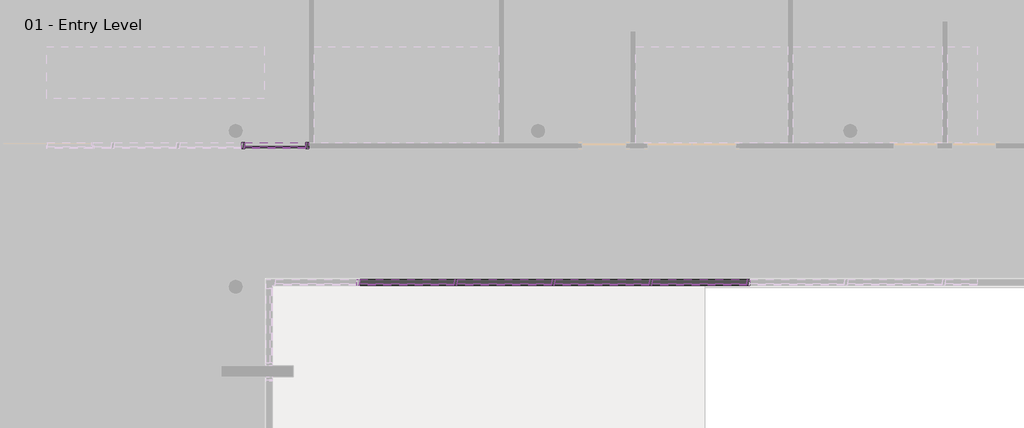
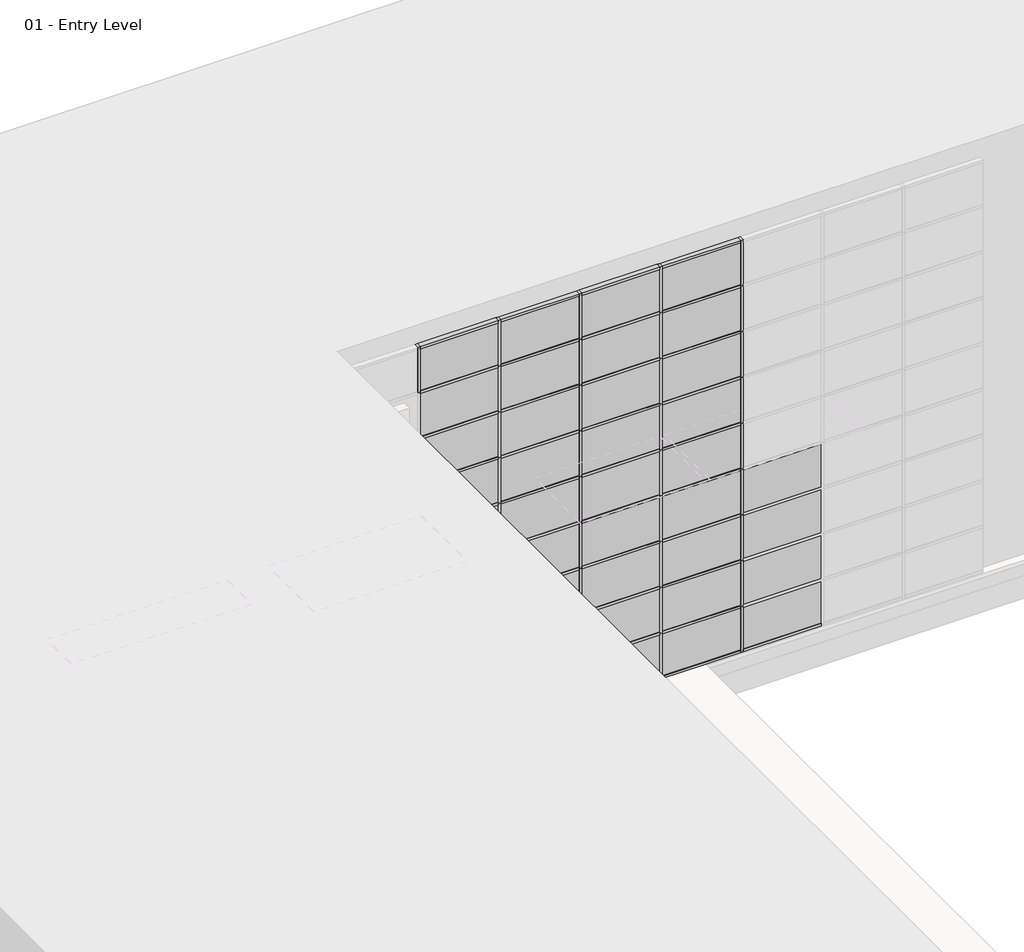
# One storey, part 26 of 35: 87 members, 42 plates.
"""IFC4 building model written with IfcOpenShell, lengths in millimetres."""

from ifc_helpers import new_model, si_unit, origin, place, context, project, spatial, transform, mapped, element, save
from components import member_2b49869a, member_18e22e2d, member_9193c932, member_391b434c, member_9e90ae50, member_6186cc23, member_5d67b9fc, member_c327c56d, member_a50b3cda, member_d5dacedd, member_7bb4584e, member_bc6ee0d3, system_panel_glazed_1b9d6098, system_panel_glazed_70da479d, system_panel_glazed_6ed60089, system_panel_glazed_f97b1054

model = new_model("IFC4")

# Units and contexts
model_context = context("Model", 3, world=origin())
ifc_project = project(units=[si_unit("LENGTHUNIT", "METRE", prefix="MILLI")], contexts=[model_context])

# Site, building, storey
site = spatial("IfcSite", under=ifc_project)
building = spatial("IfcBuilding", under=site)
storey = spatial("IfcBuildingStorey", under=building, Name="01 - Entry Level", Elevation=0.0)

# Members
placement = place(None, origin())
member_shape = member_2b49869a(model_context)
element("IfcMember", 1, ObjectType="Rectangular Mullion : 2.5\" x 5\" rectangular", at=placement, inside=storey, context=model_context, shape_type="MappedRepresentation", body=[
    mapped(member_shape, transform((19038.2207476, 42751.3, 9753.6), x_axis=(1.0, 0.0, 0.0), y_axis=(0.0, -1.0, 0.0), z_axis=(0.0, 0.0, -1.0))),
])
element("IfcMember", 2, ObjectType="Rectangular Mullion : 2.5\" x 5\" rectangular", at=placement, inside=storey, context=model_context, shape_type="MappedRepresentation", body=[
    mapped(member_shape, transform((21070.2207476, 42751.3, 9753.6), x_axis=(1.0, 0.0, 0.0), y_axis=(0.0, -1.0, 0.0), z_axis=(0.0, 0.0, -1.0))),
])
element("IfcMember", 3, ObjectType="Rectangular Mullion : 2.5\" x 5\" rectangular", at=placement, inside=storey, context=model_context, shape_type="MappedRepresentation", body=[
    mapped(member_shape, transform((23102.2207476, 42751.3, 9753.6), x_axis=(1.0, 0.0, 0.0), y_axis=(0.0, -1.0, 0.0), z_axis=(0.0, 0.0, -1.0))),
])
element("IfcMember", 4, ObjectType="Rectangular Mullion : 2.5\" x 5\" rectangular", at=placement, inside=storey, context=model_context, shape_type="MappedRepresentation", body=[
    mapped(member_shape, transform((25134.2207476, 42751.3, 9753.6), x_axis=(1.0, 0.0, 0.0), y_axis=(0.0, -1.0, 0.0), z_axis=(0.0, 0.0, -1.0))),
])
element("IfcMember", 5, ObjectType="Rectangular Mullion : 2.5\" x 5\" rectangular", at=placement, inside=storey, context=model_context, shape_type="MappedRepresentation", body=[
    mapped(member_shape, transform((27166.2207476, 42751.3, 9753.6), x_axis=(1.0, 0.0, 0.0), y_axis=(0.0, -1.0, 0.0), z_axis=(0.0, 0.0, -1.0))),
])
member_2_shape = member_18e22e2d(model_context)
element("IfcMember", 6, ObjectType="Rectangular Mullion : 2.5\" x 5\" rectangular", at=placement, inside=storey, context=model_context, shape_type="MappedRepresentation", body=[
    mapped(member_2_shape, transform((16643.3636048, 45608.8, 2438.4), x_axis=(-1.0, 0.0, 0.0), y_axis=(0.0, 1.0, 0.0), z_axis=(0.0, 0.0, -1.0))),
])
member_3_shape = member_9193c932(model_context)
element("IfcMember", 7, ObjectType="Rectangular Mullion : 2.5\" x 5\" rectangular", at=placement, inside=storey, context=model_context, shape_type="MappedRepresentation", body=[
    mapped(member_3_shape, transform((18003.1707476, 45608.8, 3403.6), x_axis=(1.0, 0.0, 0.0), y_axis=(0.0, 1.0, 0.0), z_axis=(0.0, 0.0, 1.0))),
])
member_4_shape = member_391b434c(model_context)
element("IfcMember", 8, ObjectType="Rectangular Mullion : 2.5\" x 5\" rectangular", at=placement, inside=storey, context=model_context, shape_type="MappedRepresentation", body=[
    mapped(member_4_shape, transform((21038.4707476, 42751.3, 10972.8), x_axis=(0.0, 0.0, 1.0), y_axis=(0.0, -1.0, 0.0), z_axis=(1.0, 0.0, 0.0))),
])
element("IfcMember", 9, ObjectType="Rectangular Mullion : 2.5\" x 5\" rectangular", at=placement, inside=storey, context=model_context, shape_type="MappedRepresentation", body=[
    mapped(member_4_shape, transform((23070.4707476, 42751.3, 10972.8), x_axis=(0.0, 0.0, 1.0), y_axis=(0.0, -1.0, 0.0), z_axis=(1.0, 0.0, 0.0))),
])
element("IfcMember", 10, ObjectType="Rectangular Mullion : 2.5\" x 5\" rectangular", at=placement, inside=storey, context=model_context, shape_type="MappedRepresentation", body=[
    mapped(member_4_shape, transform((25102.4707476, 42751.3, 10972.8), x_axis=(0.0, 0.0, 1.0), y_axis=(0.0, -1.0, 0.0), z_axis=(1.0, 0.0, 0.0))),
])
element("IfcMember", 11, ObjectType="Rectangular Mullion : 2.5\" x 5\" rectangular", at=placement, inside=storey, context=model_context, shape_type="MappedRepresentation", body=[
    mapped(member_4_shape, transform((27134.4707476, 42751.3, 10972.8), x_axis=(0.0, 0.0, 1.0), y_axis=(0.0, -1.0, 0.0), z_axis=(1.0, 0.0, 0.0))),
])
element("IfcMember", 12, ObjectType="Rectangular Mullion : 2.5\" x 5\" rectangular", at=placement, inside=storey, context=model_context, shape_type="MappedRepresentation", body=[
    mapped(member_4_shape, transform((21101.9707476, 42751.3, 0.0), x_axis=(0.0, 0.0, -1.0), y_axis=(0.0, -1.0, 0.0), z_axis=(-1.0, 0.0, 0.0))),
])
element("IfcMember", 13, ObjectType="Rectangular Mullion : 2.5\" x 5\" rectangular", at=placement, inside=storey, context=model_context, shape_type="MappedRepresentation", body=[
    mapped(member_4_shape, transform((23133.9707476, 42751.3, 0.0), x_axis=(0.0, 0.0, -1.0), y_axis=(0.0, -1.0, 0.0), z_axis=(-1.0, 0.0, 0.0))),
])
element("IfcMember", 14, ObjectType="Rectangular Mullion : 2.5\" x 5\" rectangular", at=placement, inside=storey, context=model_context, shape_type="MappedRepresentation", body=[
    mapped(member_4_shape, transform((25165.9707476, 42751.3, 0.0), x_axis=(0.0, 0.0, -1.0), y_axis=(0.0, -1.0, 0.0), z_axis=(-1.0, 0.0, 0.0))),
])
element("IfcMember", 15, ObjectType="Rectangular Mullion : 2.5\" x 5\" rectangular", at=placement, inside=storey, context=model_context, shape_type="MappedRepresentation", body=[
    mapped(member_4_shape, transform((27197.9707476, 42751.3, 0.0), x_axis=(0.0, 0.0, -1.0), y_axis=(0.0, -1.0, 0.0), z_axis=(-1.0, 0.0, 0.0))),
])
member_5_shape = member_9e90ae50(model_context)
element("IfcMember", 16, ObjectType="Rectangular Mullion : 2.5\" x 5\" rectangular", at=placement, inside=storey, context=model_context, shape_type="MappedRepresentation", body=[
    mapped(member_5_shape, transform((21038.4707476, 42751.3, 1219.2), x_axis=(0.0, 0.0, 1.0), y_axis=(0.0, -1.0, 0.0), z_axis=(1.0, 0.0, 0.0))),
])
element("IfcMember", 17, ObjectType="Rectangular Mullion : 2.5\" x 5\" rectangular", at=placement, inside=storey, context=model_context, shape_type="MappedRepresentation", body=[
    mapped(member_5_shape, transform((23070.4707476, 42751.3, 1219.2), x_axis=(0.0, 0.0, 1.0), y_axis=(0.0, -1.0, 0.0), z_axis=(1.0, 0.0, 0.0))),
])
element("IfcMember", 18, ObjectType="Rectangular Mullion : 2.5\" x 5\" rectangular", at=placement, inside=storey, context=model_context, shape_type="MappedRepresentation", body=[
    mapped(member_5_shape, transform((25102.4707476, 42751.3, 1219.2), x_axis=(0.0, 0.0, 1.0), y_axis=(0.0, -1.0, 0.0), z_axis=(1.0, 0.0, 0.0))),
])
element("IfcMember", 19, ObjectType="Rectangular Mullion : 2.5\" x 5\" rectangular", at=placement, inside=storey, context=model_context, shape_type="MappedRepresentation", body=[
    mapped(member_5_shape, transform((27134.4707476, 42751.3, 1219.2), x_axis=(0.0, 0.0, 1.0), y_axis=(0.0, -1.0, 0.0), z_axis=(1.0, 0.0, 0.0))),
])
element("IfcMember", 20, ObjectType="Rectangular Mullion : 2.5\" x 5\" rectangular", at=placement, inside=storey, context=model_context, shape_type="MappedRepresentation", body=[
    mapped(member_5_shape, transform((21038.4707476, 42751.3, 2438.4), x_axis=(0.0, 0.0, 1.0), y_axis=(0.0, -1.0, 0.0), z_axis=(1.0, 0.0, 0.0))),
])
element("IfcMember", 21, ObjectType="Rectangular Mullion : 2.5\" x 5\" rectangular", at=placement, inside=storey, context=model_context, shape_type="MappedRepresentation", body=[
    mapped(member_5_shape, transform((23070.4707476, 42751.3, 2438.4), x_axis=(0.0, 0.0, 1.0), y_axis=(0.0, -1.0, 0.0), z_axis=(1.0, 0.0, 0.0))),
])
element("IfcMember", 22, ObjectType="Rectangular Mullion : 2.5\" x 5\" rectangular", at=placement, inside=storey, context=model_context, shape_type="MappedRepresentation", body=[
    mapped(member_5_shape, transform((25102.4707476, 42751.3, 2438.4), x_axis=(0.0, 0.0, 1.0), y_axis=(0.0, -1.0, 0.0), z_axis=(1.0, 0.0, 0.0))),
])
element("IfcMember", 23, ObjectType="Rectangular Mullion : 2.5\" x 5\" rectangular", at=placement, inside=storey, context=model_context, shape_type="MappedRepresentation", body=[
    mapped(member_5_shape, transform((27134.4707476, 42751.3, 2438.4), x_axis=(0.0, 0.0, 1.0), y_axis=(0.0, -1.0, 0.0), z_axis=(1.0, 0.0, 0.0))),
])
element("IfcMember", 24, ObjectType="Rectangular Mullion : 2.5\" x 5\" rectangular", at=placement, inside=storey, context=model_context, shape_type="MappedRepresentation", body=[
    mapped(member_5_shape, transform((21038.4707476, 42751.3, 3657.6), x_axis=(0.0, 0.0, 1.0), y_axis=(0.0, -1.0, 0.0), z_axis=(1.0, 0.0, 0.0))),
])
element("IfcMember", 25, ObjectType="Rectangular Mullion : 2.5\" x 5\" rectangular", at=placement, inside=storey, context=model_context, shape_type="MappedRepresentation", body=[
    mapped(member_5_shape, transform((23070.4707476, 42751.3, 3657.6), x_axis=(0.0, 0.0, 1.0), y_axis=(0.0, -1.0, 0.0), z_axis=(1.0, 0.0, 0.0))),
])
element("IfcMember", 26, ObjectType="Rectangular Mullion : 2.5\" x 5\" rectangular", at=placement, inside=storey, context=model_context, shape_type="MappedRepresentation", body=[
    mapped(member_5_shape, transform((25102.4707476, 42751.3, 3657.6), x_axis=(0.0, 0.0, 1.0), y_axis=(0.0, -1.0, 0.0), z_axis=(1.0, 0.0, 0.0))),
])
element("IfcMember", 27, ObjectType="Rectangular Mullion : 2.5\" x 5\" rectangular", at=placement, inside=storey, context=model_context, shape_type="MappedRepresentation", body=[
    mapped(member_5_shape, transform((27134.4707476, 42751.3, 3657.6), x_axis=(0.0, 0.0, 1.0), y_axis=(0.0, -1.0, 0.0), z_axis=(1.0, 0.0, 0.0))),
])
element("IfcMember", 28, ObjectType="Rectangular Mullion : 2.5\" x 5\" rectangular", at=placement, inside=storey, context=model_context, shape_type="MappedRepresentation", body=[
    mapped(member_5_shape, transform((21038.4707476, 42751.3, 4876.8), x_axis=(0.0, 0.0, 1.0), y_axis=(0.0, -1.0, 0.0), z_axis=(1.0, 0.0, 0.0))),
])
element("IfcMember", 29, ObjectType="Rectangular Mullion : 2.5\" x 5\" rectangular", at=placement, inside=storey, context=model_context, shape_type="MappedRepresentation", body=[
    mapped(member_5_shape, transform((23070.4707476, 42751.3, 4876.8), x_axis=(0.0, 0.0, 1.0), y_axis=(0.0, -1.0, 0.0), z_axis=(1.0, 0.0, 0.0))),
])
element("IfcMember", 30, ObjectType="Rectangular Mullion : 2.5\" x 5\" rectangular", at=placement, inside=storey, context=model_context, shape_type="MappedRepresentation", body=[
    mapped(member_5_shape, transform((25102.4707476, 42751.3, 4876.8), x_axis=(0.0, 0.0, 1.0), y_axis=(0.0, -1.0, 0.0), z_axis=(1.0, 0.0, 0.0))),
])
element("IfcMember", 31, ObjectType="Rectangular Mullion : 2.5\" x 5\" rectangular", at=placement, inside=storey, context=model_context, shape_type="MappedRepresentation", body=[
    mapped(member_5_shape, transform((27134.4707476, 42751.3, 4876.8), x_axis=(0.0, 0.0, 1.0), y_axis=(0.0, -1.0, 0.0), z_axis=(1.0, 0.0, 0.0))),
])
element("IfcMember", 32, ObjectType="Rectangular Mullion : 2.5\" x 5\" rectangular", at=placement, inside=storey, context=model_context, shape_type="MappedRepresentation", body=[
    mapped(member_5_shape, transform((21038.4707476, 42751.3, 6096.0), x_axis=(0.0, 0.0, 1.0), y_axis=(0.0, -1.0, 0.0), z_axis=(1.0, 0.0, 0.0))),
])
element("IfcMember", 33, ObjectType="Rectangular Mullion : 2.5\" x 5\" rectangular", at=placement, inside=storey, context=model_context, shape_type="MappedRepresentation", body=[
    mapped(member_5_shape, transform((23070.4707476, 42751.3, 6096.0), x_axis=(0.0, 0.0, 1.0), y_axis=(0.0, -1.0, 0.0), z_axis=(1.0, 0.0, 0.0))),
])
element("IfcMember", 34, ObjectType="Rectangular Mullion : 2.5\" x 5\" rectangular", at=placement, inside=storey, context=model_context, shape_type="MappedRepresentation", body=[
    mapped(member_5_shape, transform((25102.4707476, 42751.3, 6096.0), x_axis=(0.0, 0.0, 1.0), y_axis=(0.0, -1.0, 0.0), z_axis=(1.0, 0.0, 0.0))),
])
element("IfcMember", 35, ObjectType="Rectangular Mullion : 2.5\" x 5\" rectangular", at=placement, inside=storey, context=model_context, shape_type="MappedRepresentation", body=[
    mapped(member_5_shape, transform((27134.4707476, 42751.3, 6096.0), x_axis=(0.0, 0.0, 1.0), y_axis=(0.0, -1.0, 0.0), z_axis=(1.0, 0.0, 0.0))),
])
element("IfcMember", 36, ObjectType="Rectangular Mullion : 2.5\" x 5\" rectangular", at=placement, inside=storey, context=model_context, shape_type="MappedRepresentation", body=[
    mapped(member_5_shape, transform((21038.4707476, 42751.3, 7315.2), x_axis=(0.0, 0.0, 1.0), y_axis=(0.0, -1.0, 0.0), z_axis=(1.0, 0.0, 0.0))),
])
element("IfcMember", 37, ObjectType="Rectangular Mullion : 2.5\" x 5\" rectangular", at=placement, inside=storey, context=model_context, shape_type="MappedRepresentation", body=[
    mapped(member_5_shape, transform((23070.4707476, 42751.3, 7315.2), x_axis=(0.0, 0.0, 1.0), y_axis=(0.0, -1.0, 0.0), z_axis=(1.0, 0.0, 0.0))),
])
element("IfcMember", 38, ObjectType="Rectangular Mullion : 2.5\" x 5\" rectangular", at=placement, inside=storey, context=model_context, shape_type="MappedRepresentation", body=[
    mapped(member_5_shape, transform((25102.4707476, 42751.3, 7315.2), x_axis=(0.0, 0.0, 1.0), y_axis=(0.0, -1.0, 0.0), z_axis=(1.0, 0.0, 0.0))),
])
element("IfcMember", 39, ObjectType="Rectangular Mullion : 2.5\" x 5\" rectangular", at=placement, inside=storey, context=model_context, shape_type="MappedRepresentation", body=[
    mapped(member_5_shape, transform((27134.4707476, 42751.3, 7315.2), x_axis=(0.0, 0.0, 1.0), y_axis=(0.0, -1.0, 0.0), z_axis=(1.0, 0.0, 0.0))),
])
element("IfcMember", 40, ObjectType="Rectangular Mullion : 2.5\" x 5\" rectangular", at=placement, inside=storey, context=model_context, shape_type="MappedRepresentation", body=[
    mapped(member_5_shape, transform((21038.4707476, 42751.3, 8534.4), x_axis=(0.0, 0.0, 1.0), y_axis=(0.0, -1.0, 0.0), z_axis=(1.0, 0.0, 0.0))),
])
element("IfcMember", 41, ObjectType="Rectangular Mullion : 2.5\" x 5\" rectangular", at=placement, inside=storey, context=model_context, shape_type="MappedRepresentation", body=[
    mapped(member_5_shape, transform((23070.4707476, 42751.3, 8534.4), x_axis=(0.0, 0.0, 1.0), y_axis=(0.0, -1.0, 0.0), z_axis=(1.0, 0.0, 0.0))),
])
element("IfcMember", 42, ObjectType="Rectangular Mullion : 2.5\" x 5\" rectangular", at=placement, inside=storey, context=model_context, shape_type="MappedRepresentation", body=[
    mapped(member_5_shape, transform((25102.4707476, 42751.3, 8534.4), x_axis=(0.0, 0.0, 1.0), y_axis=(0.0, -1.0, 0.0), z_axis=(1.0, 0.0, 0.0))),
])
element("IfcMember", 43, ObjectType="Rectangular Mullion : 2.5\" x 5\" rectangular", at=placement, inside=storey, context=model_context, shape_type="MappedRepresentation", body=[
    mapped(member_5_shape, transform((27134.4707476, 42751.3, 8534.4), x_axis=(0.0, 0.0, 1.0), y_axis=(0.0, -1.0, 0.0), z_axis=(1.0, 0.0, 0.0))),
])
element("IfcMember", 44, ObjectType="Rectangular Mullion : 2.5\" x 5\" rectangular", at=placement, inside=storey, context=model_context, shape_type="MappedRepresentation", body=[
    mapped(member_5_shape, transform((21038.4707476, 42751.3, 9753.6), x_axis=(0.0, 0.0, 1.0), y_axis=(0.0, -1.0, 0.0), z_axis=(1.0, 0.0, 0.0))),
])
element("IfcMember", 45, ObjectType="Rectangular Mullion : 2.5\" x 5\" rectangular", at=placement, inside=storey, context=model_context, shape_type="MappedRepresentation", body=[
    mapped(member_5_shape, transform((23070.4707476, 42751.3, 9753.6), x_axis=(0.0, 0.0, 1.0), y_axis=(0.0, -1.0, 0.0), z_axis=(1.0, 0.0, 0.0))),
])
element("IfcMember", 46, ObjectType="Rectangular Mullion : 2.5\" x 5\" rectangular", at=placement, inside=storey, context=model_context, shape_type="MappedRepresentation", body=[
    mapped(member_5_shape, transform((25102.4707476, 42751.3, 9753.6), x_axis=(0.0, 0.0, 1.0), y_axis=(0.0, -1.0, 0.0), z_axis=(1.0, 0.0, 0.0))),
])
element("IfcMember", 47, ObjectType="Rectangular Mullion : 2.5\" x 5\" rectangular", at=placement, inside=storey, context=model_context, shape_type="MappedRepresentation", body=[
    mapped(member_5_shape, transform((27134.4707476, 42751.3, 9753.6), x_axis=(0.0, 0.0, 1.0), y_axis=(0.0, -1.0, 0.0), z_axis=(1.0, 0.0, 0.0))),
])
element("IfcMember", 48, ObjectType="Rectangular Mullion : 2.5\" x 5\" rectangular", at=placement, inside=storey, context=model_context, shape_type="MappedRepresentation", body=[
    mapped(member_shape, transform((21070.2207476, 42751.3, 0.0), x_axis=(1.0, 0.0, 0.0), y_axis=(0.0, -1.0, 0.0), z_axis=(0.0, 0.0, -1.0))),
])
element("IfcMember", 49, ObjectType="Rectangular Mullion : 2.5\" x 5\" rectangular", at=placement, inside=storey, context=model_context, shape_type="MappedRepresentation", body=[
    mapped(member_shape, transform((23102.2207476, 42751.3, 0.0), x_axis=(1.0, 0.0, 0.0), y_axis=(0.0, -1.0, 0.0), z_axis=(0.0, 0.0, -1.0))),
])
element("IfcMember", 50, ObjectType="Rectangular Mullion : 2.5\" x 5\" rectangular", at=placement, inside=storey, context=model_context, shape_type="MappedRepresentation", body=[
    mapped(member_shape, transform((25134.2207476, 42751.3, 0.0), x_axis=(1.0, 0.0, 0.0), y_axis=(0.0, -1.0, 0.0), z_axis=(0.0, 0.0, -1.0))),
])
element("IfcMember", 51, ObjectType="Rectangular Mullion : 2.5\" x 5\" rectangular", at=placement, inside=storey, context=model_context, shape_type="MappedRepresentation", body=[
    mapped(member_shape, transform((27166.2207476, 42751.3, 0.0), x_axis=(1.0, 0.0, 0.0), y_axis=(0.0, -1.0, 0.0), z_axis=(0.0, 0.0, -1.0))),
])
element("IfcMember", 52, ObjectType="Rectangular Mullion : 2.5\" x 5\" rectangular", at=placement, inside=storey, context=model_context, shape_type="MappedRepresentation", body=[
    mapped(member_shape, transform((21070.2207476, 42751.3, 1219.2), x_axis=(1.0, 0.0, 0.0), y_axis=(0.0, -1.0, 0.0), z_axis=(0.0, 0.0, -1.0))),
])
element("IfcMember", 53, ObjectType="Rectangular Mullion : 2.5\" x 5\" rectangular", at=placement, inside=storey, context=model_context, shape_type="MappedRepresentation", body=[
    mapped(member_shape, transform((23102.2207476, 42751.3, 1219.2), x_axis=(1.0, 0.0, 0.0), y_axis=(0.0, -1.0, 0.0), z_axis=(0.0, 0.0, -1.0))),
])
element("IfcMember", 54, ObjectType="Rectangular Mullion : 2.5\" x 5\" rectangular", at=placement, inside=storey, context=model_context, shape_type="MappedRepresentation", body=[
    mapped(member_shape, transform((25134.2207476, 42751.3, 1219.2), x_axis=(1.0, 0.0, 0.0), y_axis=(0.0, -1.0, 0.0), z_axis=(0.0, 0.0, -1.0))),
])
element("IfcMember", 55, ObjectType="Rectangular Mullion : 2.5\" x 5\" rectangular", at=placement, inside=storey, context=model_context, shape_type="MappedRepresentation", body=[
    mapped(member_shape, transform((27166.2207476, 42751.3, 1219.2), x_axis=(1.0, 0.0, 0.0), y_axis=(0.0, -1.0, 0.0), z_axis=(0.0, 0.0, -1.0))),
])
element("IfcMember", 56, ObjectType="Rectangular Mullion : 2.5\" x 5\" rectangular", at=placement, inside=storey, context=model_context, shape_type="MappedRepresentation", body=[
    mapped(member_shape, transform((21070.2207476, 42751.3, 2438.4), x_axis=(1.0, 0.0, 0.0), y_axis=(0.0, -1.0, 0.0), z_axis=(0.0, 0.0, -1.0))),
])
element("IfcMember", 57, ObjectType="Rectangular Mullion : 2.5\" x 5\" rectangular", at=placement, inside=storey, context=model_context, shape_type="MappedRepresentation", body=[
    mapped(member_shape, transform((23102.2207476, 42751.3, 2438.4), x_axis=(1.0, 0.0, 0.0), y_axis=(0.0, -1.0, 0.0), z_axis=(0.0, 0.0, -1.0))),
])
element("IfcMember", 58, ObjectType="Rectangular Mullion : 2.5\" x 5\" rectangular", at=placement, inside=storey, context=model_context, shape_type="MappedRepresentation", body=[
    mapped(member_shape, transform((25134.2207476, 42751.3, 2438.4), x_axis=(1.0, 0.0, 0.0), y_axis=(0.0, -1.0, 0.0), z_axis=(0.0, 0.0, -1.0))),
])
element("IfcMember", 59, ObjectType="Rectangular Mullion : 2.5\" x 5\" rectangular", at=placement, inside=storey, context=model_context, shape_type="MappedRepresentation", body=[
    mapped(member_shape, transform((27166.2207476, 42751.3, 2438.4), x_axis=(1.0, 0.0, 0.0), y_axis=(0.0, -1.0, 0.0), z_axis=(0.0, 0.0, -1.0))),
])
element("IfcMember", 60, ObjectType="Rectangular Mullion : 2.5\" x 5\" rectangular", at=placement, inside=storey, context=model_context, shape_type="MappedRepresentation", body=[
    mapped(member_shape, transform((21070.2207476, 42751.3, 3657.6), x_axis=(1.0, 0.0, 0.0), y_axis=(0.0, -1.0, 0.0), z_axis=(0.0, 0.0, -1.0))),
])
element("IfcMember", 61, ObjectType="Rectangular Mullion : 2.5\" x 5\" rectangular", at=placement, inside=storey, context=model_context, shape_type="MappedRepresentation", body=[
    mapped(member_shape, transform((23102.2207476, 42751.3, 3657.6), x_axis=(1.0, 0.0, 0.0), y_axis=(0.0, -1.0, 0.0), z_axis=(0.0, 0.0, -1.0))),
])
element("IfcMember", 62, ObjectType="Rectangular Mullion : 2.5\" x 5\" rectangular", at=placement, inside=storey, context=model_context, shape_type="MappedRepresentation", body=[
    mapped(member_shape, transform((25134.2207476, 42751.3, 3657.6), x_axis=(1.0, 0.0, 0.0), y_axis=(0.0, -1.0, 0.0), z_axis=(0.0, 0.0, -1.0))),
])
element("IfcMember", 63, ObjectType="Rectangular Mullion : 2.5\" x 5\" rectangular", at=placement, inside=storey, context=model_context, shape_type="MappedRepresentation", body=[
    mapped(member_shape, transform((27166.2207476, 42751.3, 3657.6), x_axis=(1.0, 0.0, 0.0), y_axis=(0.0, -1.0, 0.0), z_axis=(0.0, 0.0, -1.0))),
])
element("IfcMember", 64, ObjectType="Rectangular Mullion : 2.5\" x 5\" rectangular", at=placement, inside=storey, context=model_context, shape_type="MappedRepresentation", body=[
    mapped(member_shape, transform((21070.2207476, 42751.3, 4876.8), x_axis=(1.0, 0.0, 0.0), y_axis=(0.0, -1.0, 0.0), z_axis=(0.0, 0.0, -1.0))),
])
element("IfcMember", 65, ObjectType="Rectangular Mullion : 2.5\" x 5\" rectangular", at=placement, inside=storey, context=model_context, shape_type="MappedRepresentation", body=[
    mapped(member_shape, transform((23102.2207476, 42751.3, 4876.8), x_axis=(1.0, 0.0, 0.0), y_axis=(0.0, -1.0, 0.0), z_axis=(0.0, 0.0, -1.0))),
])
element("IfcMember", 66, ObjectType="Rectangular Mullion : 2.5\" x 5\" rectangular", at=placement, inside=storey, context=model_context, shape_type="MappedRepresentation", body=[
    mapped(member_shape, transform((25134.2207476, 42751.3, 4876.8), x_axis=(1.0, 0.0, 0.0), y_axis=(0.0, -1.0, 0.0), z_axis=(0.0, 0.0, -1.0))),
])
element("IfcMember", 67, ObjectType="Rectangular Mullion : 2.5\" x 5\" rectangular", at=placement, inside=storey, context=model_context, shape_type="MappedRepresentation", body=[
    mapped(member_shape, transform((27166.2207476, 42751.3, 4876.8), x_axis=(1.0, 0.0, 0.0), y_axis=(0.0, -1.0, 0.0), z_axis=(0.0, 0.0, -1.0))),
])
element("IfcMember", 68, ObjectType="Rectangular Mullion : 2.5\" x 5\" rectangular", at=placement, inside=storey, context=model_context, shape_type="MappedRepresentation", body=[
    mapped(member_shape, transform((21070.2207476, 42751.3, 6096.0), x_axis=(1.0, 0.0, 0.0), y_axis=(0.0, -1.0, 0.0), z_axis=(0.0, 0.0, -1.0))),
])
element("IfcMember", 69, ObjectType="Rectangular Mullion : 2.5\" x 5\" rectangular", at=placement, inside=storey, context=model_context, shape_type="MappedRepresentation", body=[
    mapped(member_shape, transform((23102.2207476, 42751.3, 6096.0), x_axis=(1.0, 0.0, 0.0), y_axis=(0.0, -1.0, 0.0), z_axis=(0.0, 0.0, -1.0))),
])
element("IfcMember", 70, ObjectType="Rectangular Mullion : 2.5\" x 5\" rectangular", at=placement, inside=storey, context=model_context, shape_type="MappedRepresentation", body=[
    mapped(member_shape, transform((25134.2207476, 42751.3, 6096.0), x_axis=(1.0, 0.0, 0.0), y_axis=(0.0, -1.0, 0.0), z_axis=(0.0, 0.0, -1.0))),
])
element("IfcMember", 71, ObjectType="Rectangular Mullion : 2.5\" x 5\" rectangular", at=placement, inside=storey, context=model_context, shape_type="MappedRepresentation", body=[
    mapped(member_shape, transform((27166.2207476, 42751.3, 6096.0), x_axis=(1.0, 0.0, 0.0), y_axis=(0.0, -1.0, 0.0), z_axis=(0.0, 0.0, -1.0))),
])
element("IfcMember", 72, ObjectType="Rectangular Mullion : 2.5\" x 5\" rectangular", at=placement, inside=storey, context=model_context, shape_type="MappedRepresentation", body=[
    mapped(member_shape, transform((21070.2207476, 42751.3, 7315.2), x_axis=(1.0, 0.0, 0.0), y_axis=(0.0, -1.0, 0.0), z_axis=(0.0, 0.0, -1.0))),
])
element("IfcMember", 73, ObjectType="Rectangular Mullion : 2.5\" x 5\" rectangular", at=placement, inside=storey, context=model_context, shape_type="MappedRepresentation", body=[
    mapped(member_shape, transform((23102.2207476, 42751.3, 7315.2), x_axis=(1.0, 0.0, 0.0), y_axis=(0.0, -1.0, 0.0), z_axis=(0.0, 0.0, -1.0))),
])
element("IfcMember", 74, ObjectType="Rectangular Mullion : 2.5\" x 5\" rectangular", at=placement, inside=storey, context=model_context, shape_type="MappedRepresentation", body=[
    mapped(member_shape, transform((25134.2207476, 42751.3, 7315.2), x_axis=(1.0, 0.0, 0.0), y_axis=(0.0, -1.0, 0.0), z_axis=(0.0, 0.0, -1.0))),
])
element("IfcMember", 75, ObjectType="Rectangular Mullion : 2.5\" x 5\" rectangular", at=placement, inside=storey, context=model_context, shape_type="MappedRepresentation", body=[
    mapped(member_shape, transform((27166.2207476, 42751.3, 7315.2), x_axis=(1.0, 0.0, 0.0), y_axis=(0.0, -1.0, 0.0), z_axis=(0.0, 0.0, -1.0))),
])
element("IfcMember", 76, ObjectType="Rectangular Mullion : 2.5\" x 5\" rectangular", at=placement, inside=storey, context=model_context, shape_type="MappedRepresentation", body=[
    mapped(member_shape, transform((21070.2207476, 42751.3, 8534.4), x_axis=(1.0, 0.0, 0.0), y_axis=(0.0, -1.0, 0.0), z_axis=(0.0, 0.0, -1.0))),
])
element("IfcMember", 77, ObjectType="Rectangular Mullion : 2.5\" x 5\" rectangular", at=placement, inside=storey, context=model_context, shape_type="MappedRepresentation", body=[
    mapped(member_shape, transform((23102.2207476, 42751.3, 8534.4), x_axis=(1.0, 0.0, 0.0), y_axis=(0.0, -1.0, 0.0), z_axis=(0.0, 0.0, -1.0))),
])
element("IfcMember", 78, ObjectType="Rectangular Mullion : 2.5\" x 5\" rectangular", at=placement, inside=storey, context=model_context, shape_type="MappedRepresentation", body=[
    mapped(member_shape, transform((25134.2207476, 42751.3, 8534.4), x_axis=(1.0, 0.0, 0.0), y_axis=(0.0, -1.0, 0.0), z_axis=(0.0, 0.0, -1.0))),
])
element("IfcMember", 79, ObjectType="Rectangular Mullion : 2.5\" x 5\" rectangular", at=placement, inside=storey, context=model_context, shape_type="MappedRepresentation", body=[
    mapped(member_shape, transform((27166.2207476, 42751.3, 8534.4), x_axis=(1.0, 0.0, 0.0), y_axis=(0.0, -1.0, 0.0), z_axis=(0.0, 0.0, -1.0))),
])
member_6_shape = member_6186cc23(model_context)
element("IfcMember", 80, ObjectType="Rectangular Mullion : 2.5\" x 5\" rectangular", at=placement, inside=storey, context=model_context, shape_type="MappedRepresentation", body=[
    mapped(member_6_shape, transform((16643.3636048, 45608.8, 0.0), x_axis=(-1.0, 0.0, 0.0), y_axis=(0.0, 1.0, 0.0), z_axis=(0.0, 0.0, -1.0))),
])
member_7_shape = member_5d67b9fc(model_context)
element("IfcMember", 81, ObjectType="Rectangular Mullion : 2.5\" x 5\" rectangular", at=placement, inside=storey, context=model_context, shape_type="MappedRepresentation", body=[
    mapped(member_7_shape, transform((16643.3636048, 45608.8, 2165.35), x_axis=(-1.0, 0.0, 0.0), y_axis=(0.0, 1.0, 0.0), z_axis=(0.0, 0.0, -1.0))),
])
member_8_shape = member_c327c56d(model_context)
element("IfcMember", 82, ObjectType="Rectangular Mullion : 2.5\" x 5\" rectangular", at=placement, inside=storey, context=model_context, shape_type="MappedRepresentation", body=[
    mapped(member_8_shape, transform((18003.1707476, 45608.8, 2438.4), x_axis=(1.0, 0.0, 0.0), y_axis=(0.0, 1.0, 0.0), z_axis=(0.0, 0.0, 1.0))),
])
member_9_shape = member_a50b3cda(model_context)
element("IfcMember", 83, ObjectType="Rectangular Mullion : 2.5\" x 5\" rectangular", at=placement, inside=storey, context=model_context, shape_type="MappedRepresentation", body=[
    mapped(member_9_shape, transform((18003.1707476, 45608.8, 2165.35), x_axis=(1.0, 0.0, 0.0), y_axis=(0.0, 1.0, 0.0), z_axis=(0.0, 0.0, 1.0))),
])
member_10_shape = member_d5dacedd(model_context)
element("IfcMember", 84, ObjectType="Rectangular Mullion : 2.5\" x 5\" rectangular", at=placement, inside=storey, context=model_context, shape_type="MappedRepresentation", body=[
    mapped(member_10_shape, transform((16675.1136048, 45608.8, 3403.6), x_axis=(0.0, 0.0, 1.0), y_axis=(0.0, 1.0, 0.0), z_axis=(-1.0, 0.0, 0.0))),
])
element("IfcMember", 85, ObjectType="Rectangular Mullion : 2.5\" x 5\" rectangular", at=placement, inside=storey, context=model_context, shape_type="MappedRepresentation", body=[
    mapped(member_10_shape, transform((17939.6707476, 45608.8, 0.0), x_axis=(0.0, 0.0, -1.0), y_axis=(0.0, 1.0, 0.0), z_axis=(1.0, 0.0, 0.0))),
])
member_11_shape = member_7bb4584e(model_context)
element("IfcMember", 86, ObjectType="Rectangular Mullion : 2.5\" x 5\" rectangular", at=placement, inside=storey, context=model_context, shape_type="MappedRepresentation", body=[
    mapped(member_11_shape, transform((16611.6136048, 45608.8, 0.0), x_axis=(0.0, 0.0, -1.0), y_axis=(0.0, 1.0, 0.0), z_axis=(1.0, 0.0, 0.0))),
])
member_12_shape = member_bc6ee0d3(model_context)
element("IfcMember", 87, ObjectType="Rectangular Mullion : 2.5\" x 5\" rectangular", at=placement, inside=storey, context=model_context, shape_type="MappedRepresentation", body=[
    mapped(member_12_shape, transform((16675.1136048, 45608.8, 2438.4), x_axis=(0.0, 0.0, 1.0), y_axis=(0.0, 1.0, 0.0), z_axis=(-1.0, 0.0, 0.0))),
])

# Plates
system_panel_glazed_shape = system_panel_glazed_1b9d6098(model_context)
element("IfcPlate", 88, ObjectType="System Panel : Glazed", at=placement, inside=storey, context=model_context, shape_type="MappedRepresentation", body=[
    mapped(system_panel_glazed_shape, transform((20054.2207476, 42751.3, 63.5), x_axis=(1.0, 0.0, 0.0), y_axis=(0.0, 1.0, 0.0), z_axis=(0.0, 0.0, 1.0))),
])
element("IfcPlate", 89, ObjectType="System Panel : Glazed", at=placement, inside=storey, context=model_context, shape_type="MappedRepresentation", body=[
    mapped(system_panel_glazed_shape, transform((22086.2207476, 42751.3, 63.5), x_axis=(1.0, 0.0, 0.0), y_axis=(0.0, 1.0, 0.0), z_axis=(0.0, 0.0, 1.0))),
])
element("IfcPlate", 90, ObjectType="System Panel : Glazed", at=placement, inside=storey, context=model_context, shape_type="MappedRepresentation", body=[
    mapped(system_panel_glazed_shape, transform((24118.2207476, 42751.3, 63.5), x_axis=(1.0, 0.0, 0.0), y_axis=(0.0, 1.0, 0.0), z_axis=(0.0, 0.0, 1.0))),
])
element("IfcPlate", 91, ObjectType="System Panel : Glazed", at=placement, inside=storey, context=model_context, shape_type="MappedRepresentation", body=[
    mapped(system_panel_glazed_shape, transform((26150.2207476, 42751.3, 63.5), x_axis=(1.0, 0.0, 0.0), y_axis=(0.0, 1.0, 0.0), z_axis=(0.0, 0.0, 1.0))),
])
element("IfcPlate", 92, ObjectType="System Panel : Glazed", at=placement, inside=storey, context=model_context, shape_type="MappedRepresentation", body=[
    mapped(system_panel_glazed_shape, transform((28182.2207476, 42751.3, 63.5), x_axis=(1.0, 0.0, 0.0), y_axis=(0.0, 1.0, 0.0), z_axis=(0.0, 0.0, 1.0))),
])
element("IfcPlate", 93, ObjectType="System Panel : Glazed", at=placement, inside=storey, context=model_context, shape_type="MappedRepresentation", body=[
    mapped(system_panel_glazed_shape, transform((20054.2207476, 42751.3, 9785.35), x_axis=(1.0, 0.0, 0.0), y_axis=(0.0, 1.0, 0.0), z_axis=(0.0, 0.0, 1.0))),
])
element("IfcPlate", 94, ObjectType="System Panel : Glazed", at=placement, inside=storey, context=model_context, shape_type="MappedRepresentation", body=[
    mapped(system_panel_glazed_shape, transform((22086.2207476, 42751.3, 9785.35), x_axis=(1.0, 0.0, 0.0), y_axis=(0.0, 1.0, 0.0), z_axis=(0.0, 0.0, 1.0))),
])
element("IfcPlate", 95, ObjectType="System Panel : Glazed", at=placement, inside=storey, context=model_context, shape_type="MappedRepresentation", body=[
    mapped(system_panel_glazed_shape, transform((24118.2207476, 42751.3, 9785.35), x_axis=(1.0, 0.0, 0.0), y_axis=(0.0, 1.0, 0.0), z_axis=(0.0, 0.0, 1.0))),
])
element("IfcPlate", 96, ObjectType="System Panel : Glazed", at=placement, inside=storey, context=model_context, shape_type="MappedRepresentation", body=[
    mapped(system_panel_glazed_shape, transform((26150.2207476, 42751.3, 9785.35), x_axis=(1.0, 0.0, 0.0), y_axis=(0.0, 1.0, 0.0), z_axis=(0.0, 0.0, 1.0))),
])
system_panel_glazed_2_shape = system_panel_glazed_70da479d(model_context)
element("IfcPlate", 97, ObjectType="System Panel : Glazed", at=placement, inside=storey, context=model_context, shape_type="MappedRepresentation", body=[
    mapped(system_panel_glazed_2_shape, transform((20054.2207476, 42751.3, 1250.95), x_axis=(1.0, 0.0, 0.0), y_axis=(0.0, 1.0, 0.0), z_axis=(0.0, 0.0, 1.0))),
])
element("IfcPlate", 98, ObjectType="System Panel : Glazed", at=placement, inside=storey, context=model_context, shape_type="MappedRepresentation", body=[
    mapped(system_panel_glazed_2_shape, transform((22086.2207476, 42751.3, 1250.95), x_axis=(1.0, 0.0, 0.0), y_axis=(0.0, 1.0, 0.0), z_axis=(0.0, 0.0, 1.0))),
])
element("IfcPlate", 99, ObjectType="System Panel : Glazed", at=placement, inside=storey, context=model_context, shape_type="MappedRepresentation", body=[
    mapped(system_panel_glazed_2_shape, transform((24118.2207476, 42751.3, 1250.95), x_axis=(1.0, 0.0, 0.0), y_axis=(0.0, 1.0, 0.0), z_axis=(0.0, 0.0, 1.0))),
])
element("IfcPlate", 100, ObjectType="System Panel : Glazed", at=placement, inside=storey, context=model_context, shape_type="MappedRepresentation", body=[
    mapped(system_panel_glazed_2_shape, transform((26150.2207476, 42751.3, 1250.95), x_axis=(1.0, 0.0, 0.0), y_axis=(0.0, 1.0, 0.0), z_axis=(0.0, 0.0, 1.0))),
])
element("IfcPlate", 101, ObjectType="System Panel : Glazed", at=placement, inside=storey, context=model_context, shape_type="MappedRepresentation", body=[
    mapped(system_panel_glazed_2_shape, transform((28182.2207476, 42751.3, 1250.95), x_axis=(1.0, 0.0, 0.0), y_axis=(0.0, 1.0, 0.0), z_axis=(0.0, 0.0, 1.0))),
])
element("IfcPlate", 102, ObjectType="System Panel : Glazed", at=placement, inside=storey, context=model_context, shape_type="MappedRepresentation", body=[
    mapped(system_panel_glazed_2_shape, transform((20054.2207476, 42751.3, 2470.15), x_axis=(1.0, 0.0, 0.0), y_axis=(0.0, 1.0, 0.0), z_axis=(0.0, 0.0, 1.0))),
])
element("IfcPlate", 103, ObjectType="System Panel : Glazed", at=placement, inside=storey, context=model_context, shape_type="MappedRepresentation", body=[
    mapped(system_panel_glazed_2_shape, transform((22086.2207476, 42751.3, 2470.15), x_axis=(1.0, 0.0, 0.0), y_axis=(0.0, 1.0, 0.0), z_axis=(0.0, 0.0, 1.0))),
])
element("IfcPlate", 104, ObjectType="System Panel : Glazed", at=placement, inside=storey, context=model_context, shape_type="MappedRepresentation", body=[
    mapped(system_panel_glazed_2_shape, transform((24118.2207476, 42751.3, 2470.15), x_axis=(1.0, 0.0, 0.0), y_axis=(0.0, 1.0, 0.0), z_axis=(0.0, 0.0, 1.0))),
])
element("IfcPlate", 105, ObjectType="System Panel : Glazed", at=placement, inside=storey, context=model_context, shape_type="MappedRepresentation", body=[
    mapped(system_panel_glazed_2_shape, transform((26150.2207476, 42751.3, 2470.15), x_axis=(1.0, 0.0, 0.0), y_axis=(0.0, 1.0, 0.0), z_axis=(0.0, 0.0, 1.0))),
])
element("IfcPlate", 106, ObjectType="System Panel : Glazed", at=placement, inside=storey, context=model_context, shape_type="MappedRepresentation", body=[
    mapped(system_panel_glazed_2_shape, transform((28182.2207476, 42751.3, 2470.15), x_axis=(1.0, 0.0, 0.0), y_axis=(0.0, 1.0, 0.0), z_axis=(0.0, 0.0, 1.0))),
])
element("IfcPlate", 107, ObjectType="System Panel : Glazed", at=placement, inside=storey, context=model_context, shape_type="MappedRepresentation", body=[
    mapped(system_panel_glazed_2_shape, transform((20054.2207476, 42751.3, 3689.35), x_axis=(1.0, 0.0, 0.0), y_axis=(0.0, 1.0, 0.0), z_axis=(0.0, 0.0, 1.0))),
])
element("IfcPlate", 108, ObjectType="System Panel : Glazed", at=placement, inside=storey, context=model_context, shape_type="MappedRepresentation", body=[
    mapped(system_panel_glazed_2_shape, transform((22086.2207476, 42751.3, 3689.35), x_axis=(1.0, 0.0, 0.0), y_axis=(0.0, 1.0, 0.0), z_axis=(0.0, 0.0, 1.0))),
])
element("IfcPlate", 109, ObjectType="System Panel : Glazed", at=placement, inside=storey, context=model_context, shape_type="MappedRepresentation", body=[
    mapped(system_panel_glazed_2_shape, transform((24118.2207476, 42751.3, 3689.35), x_axis=(1.0, 0.0, 0.0), y_axis=(0.0, 1.0, 0.0), z_axis=(0.0, 0.0, 1.0))),
])
element("IfcPlate", 110, ObjectType="System Panel : Glazed", at=placement, inside=storey, context=model_context, shape_type="MappedRepresentation", body=[
    mapped(system_panel_glazed_2_shape, transform((26150.2207476, 42751.3, 3689.35), x_axis=(1.0, 0.0, 0.0), y_axis=(0.0, 1.0, 0.0), z_axis=(0.0, 0.0, 1.0))),
])
element("IfcPlate", 111, ObjectType="System Panel : Glazed", at=placement, inside=storey, context=model_context, shape_type="MappedRepresentation", body=[
    mapped(system_panel_glazed_2_shape, transform((28182.2207476, 42751.3, 3689.35), x_axis=(1.0, 0.0, 0.0), y_axis=(0.0, 1.0, 0.0), z_axis=(0.0, 0.0, 1.0))),
])
element("IfcPlate", 112, ObjectType="System Panel : Glazed", at=placement, inside=storey, context=model_context, shape_type="MappedRepresentation", body=[
    mapped(system_panel_glazed_2_shape, transform((20054.2207476, 42751.3, 4908.55), x_axis=(1.0, 0.0, 0.0), y_axis=(0.0, 1.0, 0.0), z_axis=(0.0, 0.0, 1.0))),
])
element("IfcPlate", 113, ObjectType="System Panel : Glazed", at=placement, inside=storey, context=model_context, shape_type="MappedRepresentation", body=[
    mapped(system_panel_glazed_2_shape, transform((22086.2207476, 42751.3, 4908.55), x_axis=(1.0, 0.0, 0.0), y_axis=(0.0, 1.0, 0.0), z_axis=(0.0, 0.0, 1.0))),
])
element("IfcPlate", 114, ObjectType="System Panel : Glazed", at=placement, inside=storey, context=model_context, shape_type="MappedRepresentation", body=[
    mapped(system_panel_glazed_2_shape, transform((24118.2207476, 42751.3, 4908.55), x_axis=(1.0, 0.0, 0.0), y_axis=(0.0, 1.0, 0.0), z_axis=(0.0, 0.0, 1.0))),
])
element("IfcPlate", 115, ObjectType="System Panel : Glazed", at=placement, inside=storey, context=model_context, shape_type="MappedRepresentation", body=[
    mapped(system_panel_glazed_2_shape, transform((26150.2207476, 42751.3, 4908.55), x_axis=(1.0, 0.0, 0.0), y_axis=(0.0, 1.0, 0.0), z_axis=(0.0, 0.0, 1.0))),
])
element("IfcPlate", 116, ObjectType="System Panel : Glazed", at=placement, inside=storey, context=model_context, shape_type="MappedRepresentation", body=[
    mapped(system_panel_glazed_2_shape, transform((20054.2207476, 42751.3, 6127.75), x_axis=(1.0, 0.0, 0.0), y_axis=(0.0, 1.0, 0.0), z_axis=(0.0, 0.0, 1.0))),
])
element("IfcPlate", 117, ObjectType="System Panel : Glazed", at=placement, inside=storey, context=model_context, shape_type="MappedRepresentation", body=[
    mapped(system_panel_glazed_2_shape, transform((22086.2207476, 42751.3, 6127.75), x_axis=(1.0, 0.0, 0.0), y_axis=(0.0, 1.0, 0.0), z_axis=(0.0, 0.0, 1.0))),
])
element("IfcPlate", 118, ObjectType="System Panel : Glazed", at=placement, inside=storey, context=model_context, shape_type="MappedRepresentation", body=[
    mapped(system_panel_glazed_2_shape, transform((24118.2207476, 42751.3, 6127.75), x_axis=(1.0, 0.0, 0.0), y_axis=(0.0, 1.0, 0.0), z_axis=(0.0, 0.0, 1.0))),
])
element("IfcPlate", 119, ObjectType="System Panel : Glazed", at=placement, inside=storey, context=model_context, shape_type="MappedRepresentation", body=[
    mapped(system_panel_glazed_2_shape, transform((26150.2207476, 42751.3, 6127.75), x_axis=(1.0, 0.0, 0.0), y_axis=(0.0, 1.0, 0.0), z_axis=(0.0, 0.0, 1.0))),
])
element("IfcPlate", 120, ObjectType="System Panel : Glazed", at=placement, inside=storey, context=model_context, shape_type="MappedRepresentation", body=[
    mapped(system_panel_glazed_2_shape, transform((20054.2207476, 42751.3, 7346.95), x_axis=(1.0, 0.0, 0.0), y_axis=(0.0, 1.0, 0.0), z_axis=(0.0, 0.0, 1.0))),
])
element("IfcPlate", 121, ObjectType="System Panel : Glazed", at=placement, inside=storey, context=model_context, shape_type="MappedRepresentation", body=[
    mapped(system_panel_glazed_2_shape, transform((22086.2207476, 42751.3, 7346.95), x_axis=(1.0, 0.0, 0.0), y_axis=(0.0, 1.0, 0.0), z_axis=(0.0, 0.0, 1.0))),
])
element("IfcPlate", 122, ObjectType="System Panel : Glazed", at=placement, inside=storey, context=model_context, shape_type="MappedRepresentation", body=[
    mapped(system_panel_glazed_2_shape, transform((24118.2207476, 42751.3, 7346.95), x_axis=(1.0, 0.0, 0.0), y_axis=(0.0, 1.0, 0.0), z_axis=(0.0, 0.0, 1.0))),
])
element("IfcPlate", 123, ObjectType="System Panel : Glazed", at=placement, inside=storey, context=model_context, shape_type="MappedRepresentation", body=[
    mapped(system_panel_glazed_2_shape, transform((26150.2207476, 42751.3, 7346.95), x_axis=(1.0, 0.0, 0.0), y_axis=(0.0, 1.0, 0.0), z_axis=(0.0, 0.0, 1.0))),
])
element("IfcPlate", 124, ObjectType="System Panel : Glazed", at=placement, inside=storey, context=model_context, shape_type="MappedRepresentation", body=[
    mapped(system_panel_glazed_2_shape, transform((20054.2207476, 42751.3, 8566.15), x_axis=(1.0, 0.0, 0.0), y_axis=(0.0, 1.0, 0.0), z_axis=(0.0, 0.0, 1.0))),
])
element("IfcPlate", 125, ObjectType="System Panel : Glazed", at=placement, inside=storey, context=model_context, shape_type="MappedRepresentation", body=[
    mapped(system_panel_glazed_2_shape, transform((22086.2207476, 42751.3, 8566.15), x_axis=(1.0, 0.0, 0.0), y_axis=(0.0, 1.0, 0.0), z_axis=(0.0, 0.0, 1.0))),
])
element("IfcPlate", 126, ObjectType="System Panel : Glazed", at=placement, inside=storey, context=model_context, shape_type="MappedRepresentation", body=[
    mapped(system_panel_glazed_2_shape, transform((24118.2207476, 42751.3, 8566.15), x_axis=(1.0, 0.0, 0.0), y_axis=(0.0, 1.0, 0.0), z_axis=(0.0, 0.0, 1.0))),
])
element("IfcPlate", 127, ObjectType="System Panel : Glazed", at=placement, inside=storey, context=model_context, shape_type="MappedRepresentation", body=[
    mapped(system_panel_glazed_2_shape, transform((26150.2207476, 42751.3, 8566.15), x_axis=(1.0, 0.0, 0.0), y_axis=(0.0, 1.0, 0.0), z_axis=(0.0, 0.0, 1.0))),
])
system_panel_glazed_3_shape = system_panel_glazed_6ed60089(model_context)
element("IfcPlate", 128, ObjectType="System Panel : Glazed", at=placement, inside=storey, context=model_context, shape_type="MappedRepresentation", body=[
    mapped(system_panel_glazed_3_shape, transform((17307.3921762, 45608.8, 63.5), x_axis=(-1.0, 0.0, 0.0), y_axis=(0.0, -1.0, 0.0), z_axis=(0.0, 0.0, 1.0))),
])
system_panel_glazed_4_shape = system_panel_glazed_f97b1054(model_context)
element("IfcPlate", 129, ObjectType="System Panel : Glazed", at=placement, inside=storey, context=model_context, shape_type="MappedRepresentation", body=[
    mapped(system_panel_glazed_4_shape, transform((17307.3921762, 45608.8, 2470.15), x_axis=(-1.0, 0.0, 0.0), y_axis=(0.0, -1.0, 0.0), z_axis=(0.0, 0.0, 1.0))),
])

save(model, "model.ifc")
